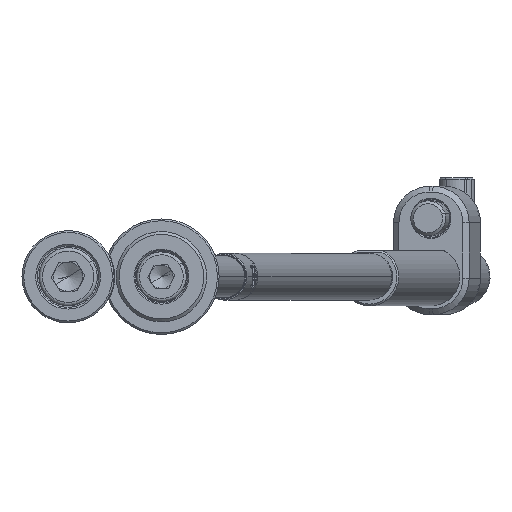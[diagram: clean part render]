
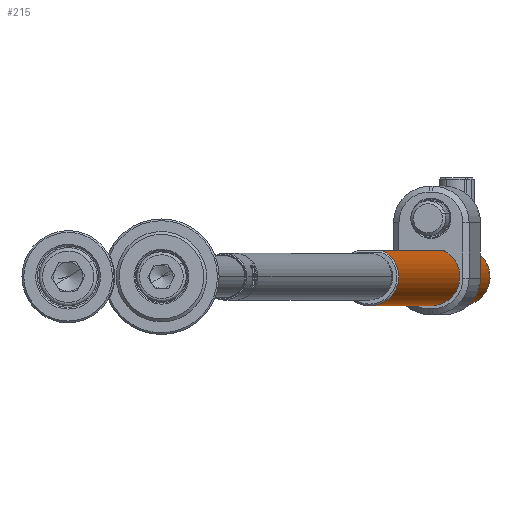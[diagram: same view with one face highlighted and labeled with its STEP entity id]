
A CAD part, front view. The second image highlights one B-rep face of the part: STEP entity #215.
In plain terms, the highlighted cylindrical face has radius 5 mm (diameter 10 mm), a partial arc.
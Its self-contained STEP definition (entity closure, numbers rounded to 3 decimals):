
#96 = CARTESIAN_POINT ( 'NONE',  ( 4.259, -2.621, 11.47 ) ) ;
#126 = DIRECTION ( 'NONE',  ( -1., 0., 0. ) ) ;
#215 = ADVANCED_FACE ( 'NONE', ( #1210 ), #340, .T. ) ;
#220 = VERTEX_POINT ( 'NONE', #12170 ) ;
#273 = VERTEX_POINT ( 'NONE', #3633 ) ;
#340 = CYLINDRICAL_SURFACE ( 'NONE', #10676, 5. ) ;
#694 = CARTESIAN_POINT ( 'NONE',  ( -5., 0., 200. ) ) ;
#830 = LINE ( 'NONE', #5202, #7746 ) ;
#897 = CARTESIAN_POINT ( 'NONE',  ( 4.108, -2.851, 10.952 ) ) ;
#940 = VERTEX_POINT ( 'NONE', #11798 ) ;
#985 = DIRECTION ( 'NONE',  ( 0., 0., -1. ) ) ;
#994 = ORIENTED_EDGE ( 'NONE', *, *, #7108, .F. ) ;
#1044 = CARTESIAN_POINT ( 'NONE',  ( 4.258, -2.623, 8.532 ) ) ;
#1210 = FACE_OUTER_BOUND ( 'NONE', #5753, .T. ) ;
#1244 = CARTESIAN_POINT ( 'NONE',  ( 4.5, -2.179, 200. ) ) ;
#1604 = DIRECTION ( 'NONE',  ( 0., 0., 1. ) ) ;
#1689 = DIRECTION ( 'NONE',  ( 0., 0., -1. ) ) ;
#1844 = EDGE_CURVE ( 'NONE', #12070, #940, #8829, .T. ) ;
#1888 = EDGE_CURVE ( 'NONE', #5859, #220, #12350, .T. ) ;
#2110 = CARTESIAN_POINT ( 'NONE',  ( 4.203, -2.709, 11.303 ) ) ;
#2144 = EDGE_CURVE ( 'NONE', #10989, #273, #830, .T. ) ;
#2804 = DIRECTION ( 'NONE',  ( 1., 0., 0. ) ) ;
#3172 = CARTESIAN_POINT ( 'NONE',  ( 4.5, -2.179, 7.938 ) ) ;
#3484 = CARTESIAN_POINT ( 'NONE',  ( 0., 0., 200. ) ) ;
#3633 = CARTESIAN_POINT ( 'NONE',  ( 4.5, -2.179, 0.3 ) ) ;
#4263 = CARTESIAN_POINT ( 'NONE',  ( 4.376, -2.421, 11.781 ) ) ;
#4484 = CARTESIAN_POINT ( 'NONE',  ( 4.015, -2.98, 10.396 ) ) ;
#4528 = CIRCLE ( 'NONE', #12524, 5. ) ;
#4607 = CARTESIAN_POINT ( 'NONE',  ( -5., 0., 199.7 ) ) ;
#4770 = ORIENTED_EDGE ( 'NONE', *, *, #1844, .F. ) ;
#5202 = CARTESIAN_POINT ( 'NONE',  ( 4.5, -2.179, 200. ) ) ;
#5208 = VECTOR ( 'NONE', #7629, 1000. ) ;
#5229 = ORIENTED_EDGE ( 'NONE', *, *, #2144, .F. ) ;
#5261 = CARTESIAN_POINT ( 'NONE',  ( 4.068, -2.908, 9.236 ) ) ;
#5677 = VECTOR ( 'NONE', #9296, 1000. ) ;
#5753 = EDGE_LOOP ( 'NONE', ( #6071, #13505, #8241, #5229, #994, #4770 ) ) ;
#5859 = VERTEX_POINT ( 'NONE', #4607 ) ;
#6071 = ORIENTED_EDGE ( 'NONE', *, *, #8965, .T. ) ;
#6409 = CARTESIAN_POINT ( 'NONE',  ( 4.5, -2.179, 199.7 ) ) ;
#6491 = CARTESIAN_POINT ( 'NONE',  ( 4.202, -2.711, 8.701 ) ) ;
#7061 = CARTESIAN_POINT ( 'NONE',  ( 0., 0., 0.3 ) ) ;
#7108 = EDGE_CURVE ( 'NONE', #940, #10989, #9132, .T. ) ;
#7629 = DIRECTION ( 'NONE',  ( 0., 0., -1. ) ) ;
#7634 = CARTESIAN_POINT ( 'NONE',  ( 4.069, -2.906, 10.771 ) ) ;
#7697 = CARTESIAN_POINT ( 'NONE',  ( 4., -3., 9.809 ) ) ;
#7746 = VECTOR ( 'NONE', #985, 1000. ) ;
#8241 = ORIENTED_EDGE ( 'NONE', *, *, #9304, .T. ) ;
#8625 = CARTESIAN_POINT ( 'NONE',  ( 4.107, -2.852, 9.051 ) ) ;
#8767 = CARTESIAN_POINT ( 'NONE',  ( 4., -3., 10.198 ) ) ;
#8829 = LINE ( 'NONE', #1244, #5208 ) ;
#8834 = CARTESIAN_POINT ( 'NONE',  ( 4.014, -2.982, 9.617 ) ) ;
#8965 = EDGE_CURVE ( 'NONE', #12070, #5859, #4528, .T. ) ;
#9069 = DIRECTION ( 'NONE',  ( 1., 0., 0. ) ) ;
#9132 = B_SPLINE_CURVE_WITH_KNOTS ( 'NONE', 3,
 ( #9703, #11864, #4263, #96, #2110, #897, #7634, #4484, #8767, #7697, #8834, #5261, #8625, #6491, #1044, #12943, #13015, #3172 ),
 .UNSPECIFIED., .F., .F.,
 ( 4, 2, 2, 2, 2, 2, 2, 2, 4 ),
 ( 0., 0.001, 0.001, 0.002, 0.002, 0.003, 0.003, 0.004, 0.005 ),
 .UNSPECIFIED. ) ;
#9296 = DIRECTION ( 'NONE',  ( 0., 0., -1. ) ) ;
#9304 = EDGE_CURVE ( 'NONE', #220, #273, #10026, .T. ) ;
#9703 = CARTESIAN_POINT ( 'NONE',  ( 4.5, -2.179, 12.062 ) ) ;
#9952 = DIRECTION ( 'NONE',  ( 0., 0., -1. ) ) ;
#10026 = CIRCLE ( 'NONE', #11855, 5. ) ;
#10676 = AXIS2_PLACEMENT_3D ( 'NONE', #3484, #9952, #126 ) ;
#10989 = VERTEX_POINT ( 'NONE', #13325 ) ;
#11798 = CARTESIAN_POINT ( 'NONE',  ( 4.5, -2.179, 12.062 ) ) ;
#11855 = AXIS2_PLACEMENT_3D ( 'NONE', #7061, #1604, #2804 ) ;
#11864 = CARTESIAN_POINT ( 'NONE',  ( 4.438, -2.307, 11.926 ) ) ;
#12070 = VERTEX_POINT ( 'NONE', #6409 ) ;
#12170 = CARTESIAN_POINT ( 'NONE',  ( -5., 0., 0.3 ) ) ;
#12350 = LINE ( 'NONE', #694, #5677 ) ;
#12524 = AXIS2_PLACEMENT_3D ( 'NONE', #13542, #1689, #9069 ) ;
#12943 = CARTESIAN_POINT ( 'NONE',  ( 4.376, -2.422, 8.22 ) ) ;
#13015 = CARTESIAN_POINT ( 'NONE',  ( 4.438, -2.308, 8.074 ) ) ;
#13325 = CARTESIAN_POINT ( 'NONE',  ( 4.5, -2.179, 7.938 ) ) ;
#13505 = ORIENTED_EDGE ( 'NONE', *, *, #1888, .T. ) ;
#13542 = CARTESIAN_POINT ( 'NONE',  ( 0., 0., 199.7 ) ) ;
